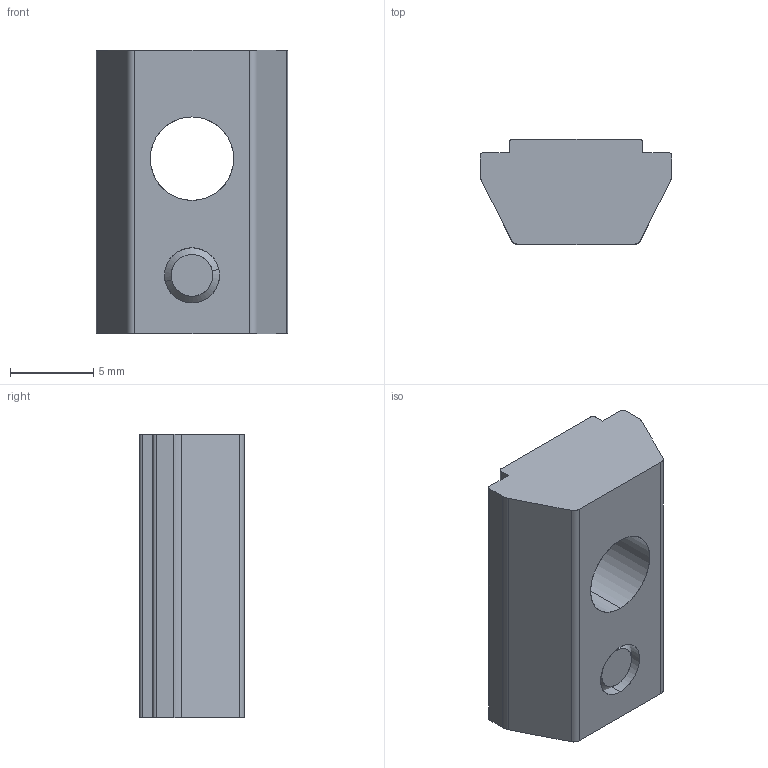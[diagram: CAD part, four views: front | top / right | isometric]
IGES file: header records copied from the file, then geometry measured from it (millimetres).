
Start section: SolidWorks IGES file using analytic representation for surfaces
Global section: file name: C:\Documents and Settings\sakuman\デスクトップ\SFB-814.IGS; native system: SolidWorks 2011; preprocessor: SolidWorks 2011; author: sakumaN; date: 121117.154922; units: millimetre
Bounding box: 11.5 x 6.3 x 17 mm (x, y, z)
Surface area: 818.8 mm2 (no closed solid volume)
Topology: 0 solids, 0 shells, 36 faces, 402 edges, 402 vertices
Faces by surface type: bspline 20, revolution 16
